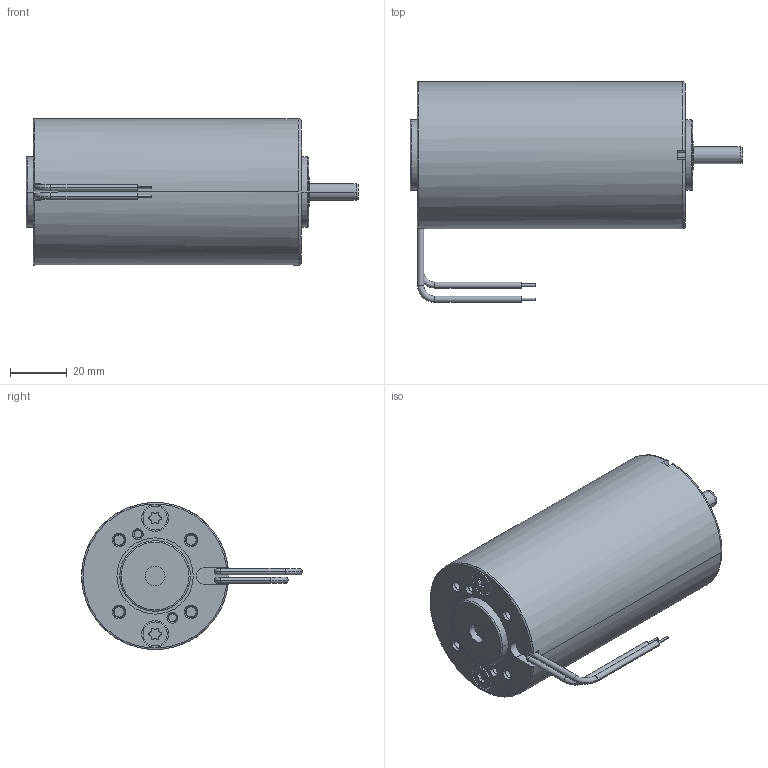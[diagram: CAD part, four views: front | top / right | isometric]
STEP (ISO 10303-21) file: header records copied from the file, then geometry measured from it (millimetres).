
FILE_DESCRIPTION((''),'2;1');
FILE_NAME('GR53X30_AS6X20_NS0','2005-06-28T',('Thomas.Schnell'),(''),'PRO/ENGINEER BY PARAMETRIC TECHNOLOGY CORPORATION, 2003490','PRO/ENGINEER BY PARAMETRIC TECHNOLOGY CORPORATION, 2003490','');
FILE_SCHEMA(('AUTOMOTIVE_DESIGN_CC2 { 1 2 10303 214 -1 1 5 2 }'));
Length unit declared in the file: millimetre
Products named in the file (1): GR53X30_AS6X20_NS0
Bounding box: 117.5 x 78.1 x 51.99 mm (x, y, z)
Volume: 203565.7 mm3; surface area: 23981.1 mm2
Topology: 1 solids, 9 shells, 189 faces, 427 edges, 276 vertices
Faces by surface type: cylinder 103, plane 49, cone 22, torus 15
Entity records: 5814 total; most frequent: DIRECTION 1070, CARTESIAN_POINT 947, ORIENTED_EDGE 822, AXIS2_PLACEMENT_3D 459, EDGE_CURVE 427, VERTEX_POINT 276, CIRCLE 269, EDGE_LOOP 225
